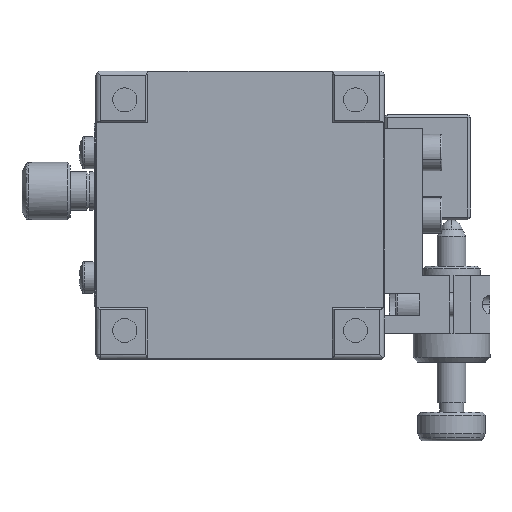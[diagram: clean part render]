
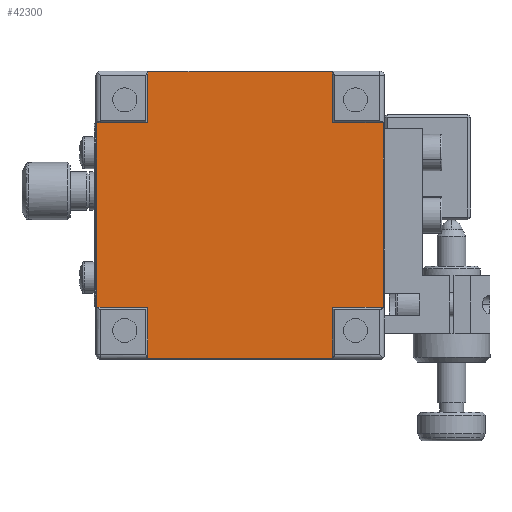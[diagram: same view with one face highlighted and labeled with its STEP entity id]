
A CAD part, front view. The second image highlights one B-rep face of the part: STEP entity #42300.
In plain terms, the highlighted planar face has unit normal (0, -1, 0).
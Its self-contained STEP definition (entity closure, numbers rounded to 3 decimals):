
#1020 = VERTEX_POINT ( 'NONE', #34520 ) ;
#1992 = ORIENTED_EDGE ( 'NONE', *, *, #21230, .F. ) ;
#2733 = CARTESIAN_POINT ( 'NONE',  ( -15.031, -4.5, -9.6 ) ) ;
#3435 = EDGE_CURVE ( 'NONE', #5480, #1020, #39351, .T. ) ;
#5213 = CARTESIAN_POINT ( 'NONE',  ( 9.469, -4.5, 14.9 ) ) ;
#5480 = VERTEX_POINT ( 'NONE', #21343 ) ;
#5619 = VERTEX_POINT ( 'NONE', #29907 ) ;
#5806 = VERTEX_POINT ( 'NONE', #42308 ) ;
#6004 = DIRECTION ( 'NONE',  ( 0., 0., 1. ) ) ;
#6531 = FACE_OUTER_BOUND ( 'NONE', #47020, .T. ) ;
#7045 = VECTOR ( 'NONE', #36040, 1000. ) ;
#7172 = EDGE_CURVE ( 'NONE', #39223, #21979, #46766, .T. ) ;
#7436 = LINE ( 'NONE', #25522, #46420 ) ;
#7632 = DIRECTION ( 'NONE',  ( 1., 0., 0. ) ) ;
#8860 = ORIENTED_EDGE ( 'NONE', *, *, #41869, .T. ) ;
#9238 = VECTOR ( 'NONE', #37256, 1000. ) ;
#9524 = LINE ( 'NONE', #43433, #48514 ) ;
#9925 = CARTESIAN_POINT ( 'NONE',  ( -9.731, -4.5, -15. ) ) ;
#10127 = CARTESIAN_POINT ( 'NONE',  ( -15.031, -4.5, 9.6 ) ) ;
#10489 = VERTEX_POINT ( 'NONE', #34008 ) ;
#11093 = VECTOR ( 'NONE', #27785, 1000. ) ;
#11592 = ORIENTED_EDGE ( 'NONE', *, *, #19580, .T. ) ;
#12837 = LINE ( 'NONE', #28554, #22833 ) ;
#14121 = EDGE_CURVE ( 'NONE', #41589, #5806, #7436, .T. ) ;
#14202 = EDGE_CURVE ( 'NONE', #37352, #5619, #25115, .T. ) ;
#14504 = ORIENTED_EDGE ( 'NONE', *, *, #35557, .T. ) ;
#14636 = CARTESIAN_POINT ( 'NONE',  ( 9.469, -4.5, -15. ) ) ;
#16180 = ORIENTED_EDGE ( 'NONE', *, *, #27536, .T. ) ;
#17390 = CARTESIAN_POINT ( 'NONE',  ( -15.131, -4.5, 9.6 ) ) ;
#17540 = DIRECTION ( 'NONE',  ( 1., 0., 0. ) ) ;
#17653 = DIRECTION ( 'NONE',  ( -1., 0., 0. ) ) ;
#18508 = CARTESIAN_POINT ( 'NONE',  ( -9.731, -4.5, -14.9 ) ) ;
#19580 = EDGE_CURVE ( 'NONE', #21979, #33721, #12837, .T. ) ;
#20489 = ORIENTED_EDGE ( 'NONE', *, *, #3435, .F. ) ;
#20759 = DIRECTION ( 'NONE',  ( 0., 0., 1. ) ) ;
#21230 = EDGE_CURVE ( 'NONE', #37352, #33721, #45865, .T. ) ;
#21343 = CARTESIAN_POINT ( 'NONE',  ( -9.731, -4.5, 9.6 ) ) ;
#21979 = VERTEX_POINT ( 'NONE', #35854 ) ;
#22347 = VECTOR ( 'NONE', #25452, 1000. ) ;
#22833 = VECTOR ( 'NONE', #6004, 1000. ) ;
#23205 = ORIENTED_EDGE ( 'NONE', *, *, #37238, .F. ) ;
#23372 = CARTESIAN_POINT ( 'NONE',  ( 9.469, -4.5, -9.6 ) ) ;
#24882 = VECTOR ( 'NONE', #44134, 1000. ) ;
#25115 = LINE ( 'NONE', #14636, #33931 ) ;
#25452 = DIRECTION ( 'NONE',  ( 1., 0., 0. ) ) ;
#25522 = CARTESIAN_POINT ( 'NONE',  ( -9.731, -4.5, -15. ) ) ;
#25722 = LINE ( 'NONE', #47959, #34533 ) ;
#26426 = CARTESIAN_POINT ( 'NONE',  ( -15.131, -4.5, -9.6 ) ) ;
#26627 = VECTOR ( 'NONE', #7632, 1000. ) ;
#27536 = EDGE_CURVE ( 'NONE', #41589, #43268, #38321, .T. ) ;
#27785 = DIRECTION ( 'NONE',  ( -1., 0., 0. ) ) ;
#28554 = CARTESIAN_POINT ( 'NONE',  ( 14.769, -4.5, -9.6 ) ) ;
#28598 = CARTESIAN_POINT ( 'NONE',  ( -9.731, -4.5, -14.9 ) ) ;
#28840 = PLANE ( 'NONE',  #43618 ) ;
#29044 = CARTESIAN_POINT ( 'NONE',  ( 9.469, -4.5, -14.9 ) ) ;
#29605 = DIRECTION ( 'NONE',  ( 0., 0., 1. ) ) ;
#29907 = CARTESIAN_POINT ( 'NONE',  ( 9.469, -4.5, 14.9 ) ) ;
#30214 = CARTESIAN_POINT ( 'NONE',  ( 9.469, -4.5, 9.6 ) ) ;
#31124 = LINE ( 'NONE', #5213, #11093 ) ;
#32848 = CARTESIAN_POINT ( 'NONE',  ( -15.131, -4.5, -9.6 ) ) ;
#33721 = VERTEX_POINT ( 'NONE', #34217 ) ;
#33931 = VECTOR ( 'NONE', #29605, 1000. ) ;
#34008 = CARTESIAN_POINT ( 'NONE',  ( -15.031, -4.5, 9.6 ) ) ;
#34217 = CARTESIAN_POINT ( 'NONE',  ( 14.769, -4.5, 9.6 ) ) ;
#34520 = CARTESIAN_POINT ( 'NONE',  ( -9.731, -4.5, 14.9 ) ) ;
#34533 = VECTOR ( 'NONE', #44629, 1000. ) ;
#34876 = LINE ( 'NONE', #10127, #24882 ) ;
#35384 = ORIENTED_EDGE ( 'NONE', *, *, #7172, .T. ) ;
#35455 = ORIENTED_EDGE ( 'NONE', *, *, #14202, .T. ) ;
#35557 = EDGE_CURVE ( 'NONE', #5619, #1020, #31124, .T. ) ;
#35854 = CARTESIAN_POINT ( 'NONE',  ( 14.769, -4.5, -9.6 ) ) ;
#36040 = DIRECTION ( 'NONE',  ( 1., 0., 0. ) ) ;
#37238 = EDGE_CURVE ( 'NONE', #10489, #5480, #25722, .T. ) ;
#37256 = DIRECTION ( 'NONE',  ( 0., 0., 1. ) ) ;
#37352 = VERTEX_POINT ( 'NONE', #30214 ) ;
#38321 = LINE ( 'NONE', #28598, #7045 ) ;
#39223 = VERTEX_POINT ( 'NONE', #23372 ) ;
#39351 = LINE ( 'NONE', #41086, #9238 ) ;
#40268 = ORIENTED_EDGE ( 'NONE', *, *, #14121, .F. ) ;
#40306 = DIRECTION ( 'NONE',  ( 0., 1., 0. ) ) ;
#40737 = DIRECTION ( 'NONE',  ( 0., 0., 1. ) ) ;
#41086 = CARTESIAN_POINT ( 'NONE',  ( -9.731, -4.5, -15. ) ) ;
#41458 = EDGE_CURVE ( 'NONE', #10489, #47667, #34876, .T. ) ;
#41589 = VERTEX_POINT ( 'NONE', #18508 ) ;
#41869 = EDGE_CURVE ( 'NONE', #43268, #39223, #9524, .T. ) ;
#42300 = ADVANCED_FACE ( 'NONE', ( #6531 ), #28840, .F. ) ;
#42308 = CARTESIAN_POINT ( 'NONE',  ( -9.731, -4.5, -9.6 ) ) ;
#43268 = VERTEX_POINT ( 'NONE', #29044 ) ;
#43297 = EDGE_CURVE ( 'NONE', #47667, #5806, #43684, .T. ) ;
#43433 = CARTESIAN_POINT ( 'NONE',  ( 9.469, -4.5, -15. ) ) ;
#43618 = AXIS2_PLACEMENT_3D ( 'NONE', #9925, #40306, #17653 ) ;
#43684 = LINE ( 'NONE', #32848, #22347 ) ;
#44134 = DIRECTION ( 'NONE',  ( 0., 0., -1. ) ) ;
#44629 = DIRECTION ( 'NONE',  ( 1., 0., 0. ) ) ;
#44675 = VECTOR ( 'NONE', #17540, 1000. ) ;
#45865 = LINE ( 'NONE', #17390, #44675 ) ;
#46352 = ORIENTED_EDGE ( 'NONE', *, *, #43297, .T. ) ;
#46420 = VECTOR ( 'NONE', #40737, 1000. ) ;
#46766 = LINE ( 'NONE', #26426, #26627 ) ;
#47020 = EDGE_LOOP ( 'NONE', ( #40268, #16180, #8860, #35384, #11592, #1992, #35455, #14504, #20489, #23205, #47177, #46352 ) ) ;
#47177 = ORIENTED_EDGE ( 'NONE', *, *, #41458, .T. ) ;
#47667 = VERTEX_POINT ( 'NONE', #2733 ) ;
#47959 = CARTESIAN_POINT ( 'NONE',  ( -15.131, -4.5, 9.6 ) ) ;
#48514 = VECTOR ( 'NONE', #20759, 1000. ) ;
